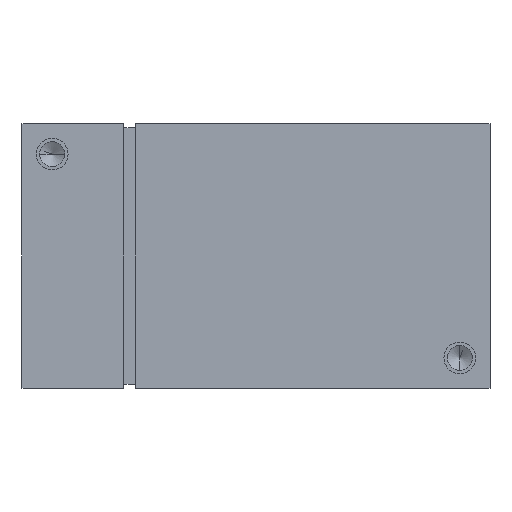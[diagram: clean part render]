
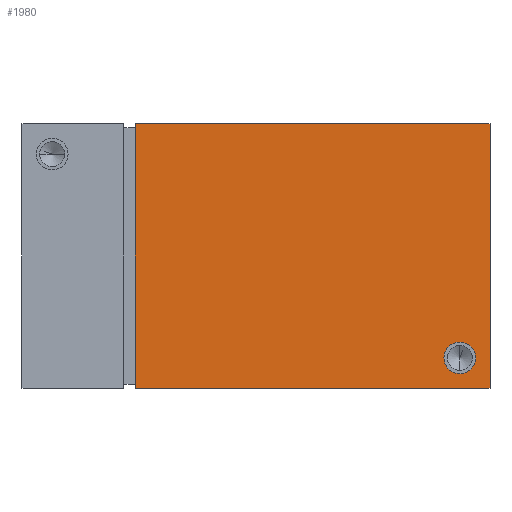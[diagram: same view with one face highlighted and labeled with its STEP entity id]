
A CAD part, front view. The second image highlights one B-rep face of the part: STEP entity #1980.
In plain terms, the highlighted planar face has unit normal (0, -1, 0).
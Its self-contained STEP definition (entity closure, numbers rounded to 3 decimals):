
#1980 = ADVANCED_FACE ( 'NONE', ( #12061, #12047 ), #12063, .T. ) ;
#3089 = ORIENTED_EDGE ( 'NONE', *, *, #4357, .F. ) ;
#3090 = ORIENTED_EDGE ( 'NONE', *, *, #4453, .F. ) ;
#3091 = ORIENTED_EDGE ( 'NONE', *, *, #4355, .F. ) ;
#3092 = ORIENTED_EDGE ( 'NONE', *, *, #4346, .F. ) ;
#3093 = ORIENTED_EDGE ( 'NONE', *, *, #4344, .T. ) ;
#3094 = ORIENTED_EDGE ( 'NONE', *, *, #4340, .F. ) ;
#3323 = VERTEX_POINT ( 'NONE', #11078 ) ;
#3376 = VERTEX_POINT ( 'NONE', #11171 ) ;
#3377 = VERTEX_POINT ( 'NONE', #11173 ) ;
#3403 = VERTEX_POINT ( 'NONE', #11202 ) ;
#3512 = VERTEX_POINT ( 'NONE', #11311 ) ;
#3515 = VERTEX_POINT ( 'NONE', #11314 ) ;
#4340 = EDGE_CURVE ( 'NONE', #3403, #3512, #8114, .T. ) ;
#4344 = EDGE_CURVE ( 'NONE', #3515, #3512, #8119, .T. ) ;
#4346 = EDGE_CURVE ( 'NONE', #3515, #3323, #8122, .T. ) ;
#4355 = EDGE_CURVE ( 'NONE', #3323, #3403, #8125, .T. ) ;
#4357 = EDGE_CURVE ( 'NONE', #3377, #3376, #4750, .T. ) ;
#4453 = EDGE_CURVE ( 'NONE', #3376, #3377, #4843, .T. ) ;
#4744 = VECTOR ( 'NONE', #8123, 1000. ) ;
#4745 = VECTOR ( 'NONE', #8129, 1000. ) ;
#4746 = VECTOR ( 'NONE', #8132, 1000. ) ;
#4747 = VECTOR ( 'NONE', #8143, 1000. ) ;
#4750 = CIRCLE ( 'NONE', #4753, 2.1 ) ;
#4753 = AXIS2_PLACEMENT_3D ( 'NONE', #8146, #8147, #8148 ) ;
#4843 = CIRCLE ( 'NONE', #4847, 2.1 ) ;
#4847 = AXIS2_PLACEMENT_3D ( 'NONE', #8490, #8491, #8492 ) ;
#8114 = LINE ( 'NONE', #8121, #4744 ) ;
#8119 = LINE ( 'NONE', #8127, #4745 ) ;
#8121 = CARTESIAN_POINT ( 'NONE',  ( 30., -17.5, 17.5 ) ) ;
#8122 = LINE ( 'NONE', #8130, #4746 ) ;
#8123 = DIRECTION ( 'NONE',  ( 0., 0., -1. ) ) ;
#8125 = LINE ( 'NONE', #8141, #4747 ) ;
#8127 = CARTESIAN_POINT ( 'NONE',  ( -32., -17.5, -17.5 ) ) ;
#8129 = DIRECTION ( 'NONE',  ( 1., 0., 0. ) ) ;
#8130 = CARTESIAN_POINT ( 'NONE',  ( -17., -17.5, 17.5 ) ) ;
#8132 = DIRECTION ( 'NONE',  ( 0., 0., 1. ) ) ;
#8141 = CARTESIAN_POINT ( 'NONE',  ( -32., -17.5, 17.5 ) ) ;
#8143 = DIRECTION ( 'NONE',  ( 1., 0., 0. ) ) ;
#8146 = CARTESIAN_POINT ( 'NONE',  ( 26., -17.5, -13.5 ) ) ;
#8147 = DIRECTION ( 'NONE',  ( 0., -1., 0. ) ) ;
#8148 = DIRECTION ( 'NONE',  ( 0., 0., -1. ) ) ;
#8490 = CARTESIAN_POINT ( 'NONE',  ( 26., -17.5, -13.5 ) ) ;
#8491 = DIRECTION ( 'NONE',  ( 0., -1., 0. ) ) ;
#8492 = DIRECTION ( 'NONE',  ( 0., 0., -1. ) ) ;
#11078 = CARTESIAN_POINT ( 'NONE',  ( -17., -17.5, 17.5 ) ) ;
#11171 = CARTESIAN_POINT ( 'NONE',  ( 26., -17.5, -11.4 ) ) ;
#11173 = CARTESIAN_POINT ( 'NONE',  ( 26., -17.5, -15.6 ) ) ;
#11202 = CARTESIAN_POINT ( 'NONE',  ( 30., -17.5, 17.5 ) ) ;
#11311 = CARTESIAN_POINT ( 'NONE',  ( 30., -17.5, -17.5 ) ) ;
#11314 = CARTESIAN_POINT ( 'NONE',  ( -17., -17.5, -17.5 ) ) ;
#12047 = FACE_OUTER_BOUND ( 'NONE', #18573, .T. ) ;
#12061 = FACE_BOUND ( 'NONE', #18579, .T. ) ;
#12063 = PLANE ( 'NONE',  #15853 ) ;
#12072 = CARTESIAN_POINT ( 'NONE',  ( -32., -17.5, 17.5 ) ) ;
#12073 = DIRECTION ( 'NONE',  ( 0., -1., 0. ) ) ;
#12074 = DIRECTION ( 'NONE',  ( 0., 0., -1. ) ) ;
#15853 = AXIS2_PLACEMENT_3D ( 'NONE', #12072, #12073, #12074 ) ;
#18573 = EDGE_LOOP ( 'NONE', ( #3091, #3092, #3093, #3094 ) ) ;
#18579 = EDGE_LOOP ( 'NONE', ( #3089, #3090 ) ) ;
